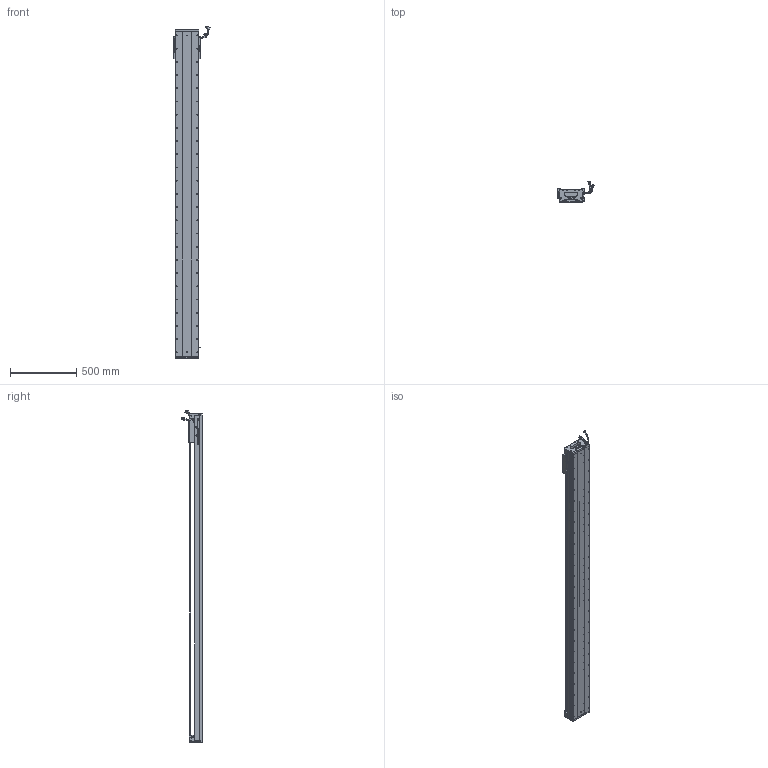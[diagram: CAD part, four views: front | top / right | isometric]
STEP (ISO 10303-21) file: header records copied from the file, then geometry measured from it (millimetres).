
FILE_DESCRIPTION (( 'STEP AP203' ), '1' );
FILE_NAME ('Z2-RY170D-1-L500-B-K.SLDASM_2200.step', '2021-05-17T09:10:10', ( '盈信电脑' ), ( '东莞市道滘镇水果街19号' ), 'SwSTEP 2.0', 'SolidWorks 2016', '' );
FILE_SCHEMA (( 'CONFIG_CONTROL_DESIGN' ));
Length unit declared in the file: millimetre
Products named in the file (36): RY170直线电机感应器672光电感应片; HARNESS-Part-2; SCREW-M1.6; Z-RY170詩湍奻揤裔; SHIELDPLATE; SEAL; LABEL; 140蚥薯蝶輸; PBU_SHEET; HOLDER0; 170-Z-臏賑輸盄裔(21遴); Z-RY170詩湍狟揤裔; 140雄赽晤鎢ん堤盄; SCREW-M1.7; Z2-RY170-L500詩湍145mm遵_2200; 080黍杅芛假蚾釱21遴; SCREW-M1.6-3; COVER; SCALE-Part-2; Z2-RY170D-1-L500-B-K.SLDASM_2200; 覜茼ん672; SCREW-M1.6-1; Z-170詩湍傷裔啣; HARNESS; SCALE; SCREW-M1.7-1; SEAL-Part-1; HARNESS-Part-1; 榋妏寠巭燃_暯_M2_2; LABEL-Part-1; Z2-RY170臏賑輸(21遴); SCALE-Part-1; SCREW-M1.6-2; Z2-RY170-L500耀郪菁釱_2200; PSLH080_PSLF2; COVER-Part-1
Assembly tree (41 placements, depth 4):
  Z2-RY170D-1-L500-B-K.SLDASM_2200
    Z2-RY170-L500耀郪菁釱_2200
    RY170直线电机感应器672光电感应片
    Z2-RY170臏賑輸(21遴)
    覜茼ん672  x3
    PSLH080_PSLF2
      SCALE
        SCALE-Part-1
        SCALE-Part-2
      HARNESS
        HARNESS-Part-1
        HARNESS-Part-2
      LABEL
        LABEL-Part-1
      COVER
        COVER-Part-1
      SEAL
        SEAL-Part-1
      榋妏寠巭燃_暯_M2_2
      SHIELDPLATE
      SCREW-M1.7
      SCREW-M1.7-1
      PBU_SHEET
      SCREW-M1.6
      SCREW-M1.6-1
      SCREW-M1.6-2
      SCREW-M1.6-3
      HOLDER0
    080黍杅芛假蚾釱21遴
    Z2-RY170-L500詩湍145mm遵_2200
    Z-170詩湍傷裔啣  x2
    Z-RY170詩湍奻揤裔  x2
    Z-RY170詩湍狟揤裔  x2
    140蚥薯蝶輸  x2
    170-Z-臏賑輸盄裔(21遴)
    140雄赽晤鎢ん堤盄
Bounding box: 275.34 x 158.11 x 2513.72 mm (x, y, z)
Volume: 12348335.2 mm3; surface area: 3060927.2 mm2
Topology: 36 solids, 36 shells, 4002 faces, 11097 edges, 6939 vertices
Faces by surface type: cylinder 2012, plane 1308, cone 560, torus 69, bspline 53
Entity records: 126021 total; most frequent: CARTESIAN_POINT 35304, ORIENTED_EDGE 18678, DIRECTION 17387, EDGE_CURVE 9339, AXIS2_PLACEMENT_3D 6404, VERTEX_POINT 6057, LINE 4579, VECTOR 4579
